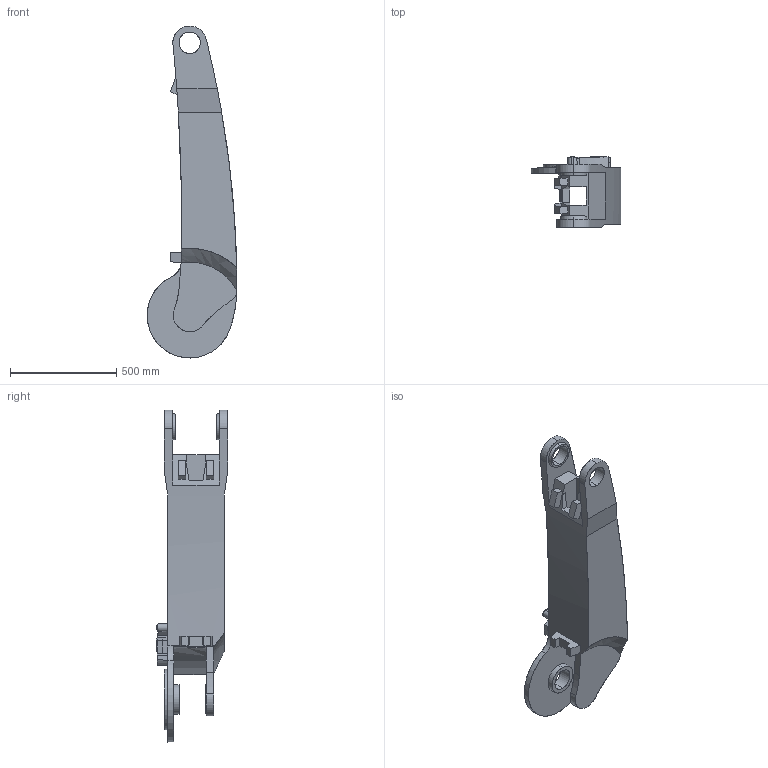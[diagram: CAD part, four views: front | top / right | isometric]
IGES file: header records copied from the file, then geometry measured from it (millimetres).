
Start section: SolidWorks IGES file using analytic representation for surfaces
Global section: file name: C:\Data\Lättmodeller\Nytt\660\IRB660_180-315_IRC5_rev03\IRB660_180-315_IRC5_rev03_IRC5_IGES_j\IRB660_180-315_LINK2_CAD_rev02.IGS; native system: SolidWorks 2014; preprocessor: SolidWorks 2014; author: seadbov; date: 161202.130147; units: millimetre
Bounding box: 421.67 x 333.5 x 1558.99 mm (x, y, z)
Surface area: 2088093.7 mm2 (no closed solid volume)
Topology: 0 solids, 0 shells, 143 faces, 2346 edges, 2346 vertices
Faces by surface type: bspline 101, revolution 42
